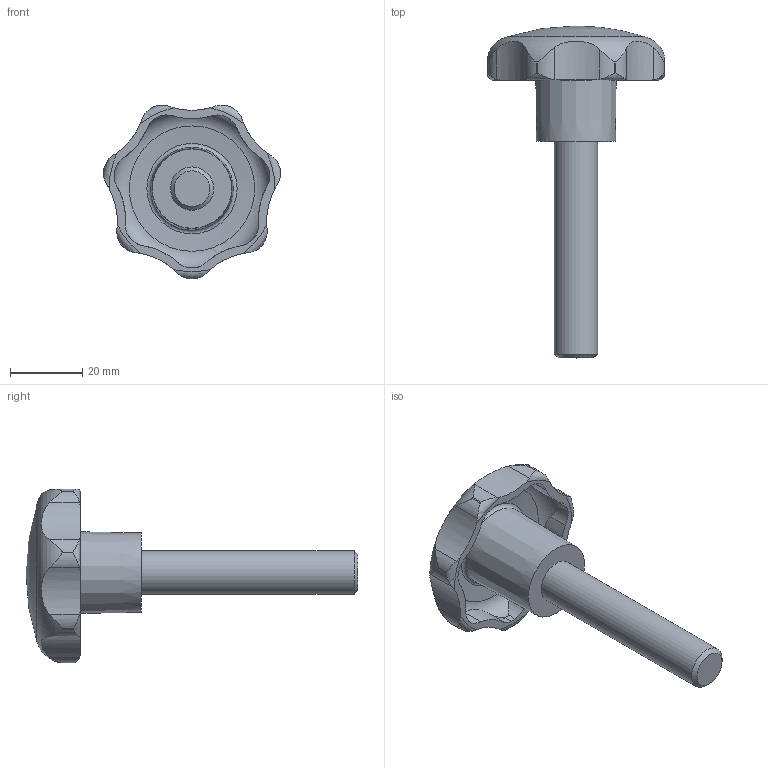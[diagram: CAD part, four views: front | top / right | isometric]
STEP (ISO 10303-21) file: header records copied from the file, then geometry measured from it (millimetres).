
FILE_DESCRIPTION( ( 'STEP AP203' ), '1' );
FILE_NAME( 'C:/Temp/Ganter_Step_05_03_2020/data/2_2/gn_6336_4/gn_6336_4_st/Star knob GN 6336.4-ST-50-M12-60.stp', '2020-03-05T12:07:43', ( 'License CC BY-ND 4.0' ), ( 'CADENAS' ), ' ', 'PARTsolutions', ' ' );
FILE_SCHEMA( ( 'CONFIG_CONTROL_DESIGN' ) );
Length unit declared in the file: millimetre
Products named in the file (1): _Star knob GN 6336.4-ST-50-M12-60
Bounding box: 49.04 x 92 x 48.12 mm (x, y, z)
Volume: 27925.8 mm3; surface area: 9704.1 mm2
Topology: 1 solids, 1 shells, 74 faces, 209 edges, 138 vertices
Faces by surface type: cylinder 50, torus 10, cone 10, plane 3, sphere 1
Full cylindrical faces by diameter (mm): 12 x1
Entity records: 3234 total; most frequent: CARTESIAN_POINT 1425, ORIENTED_EDGE 394, DIRECTION 334, EDGE_CURVE 197, AXIS2_PLACEMENT_3D 146, VERTEX_POINT 135, B_SPLINE_CURVE_WITH_KNOTS 84, EDGE_LOOP 83
